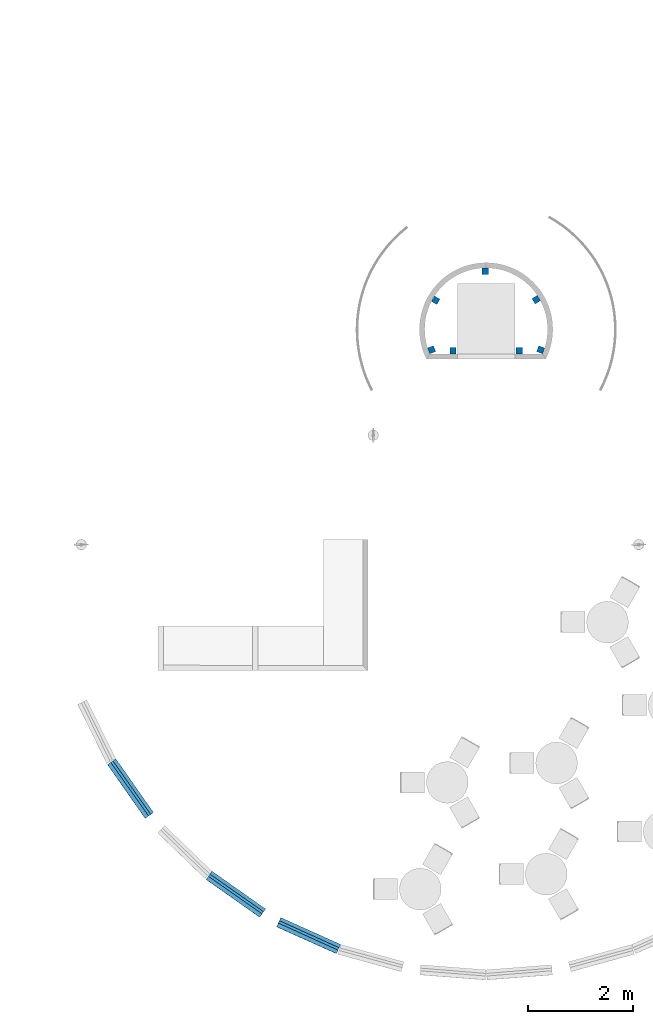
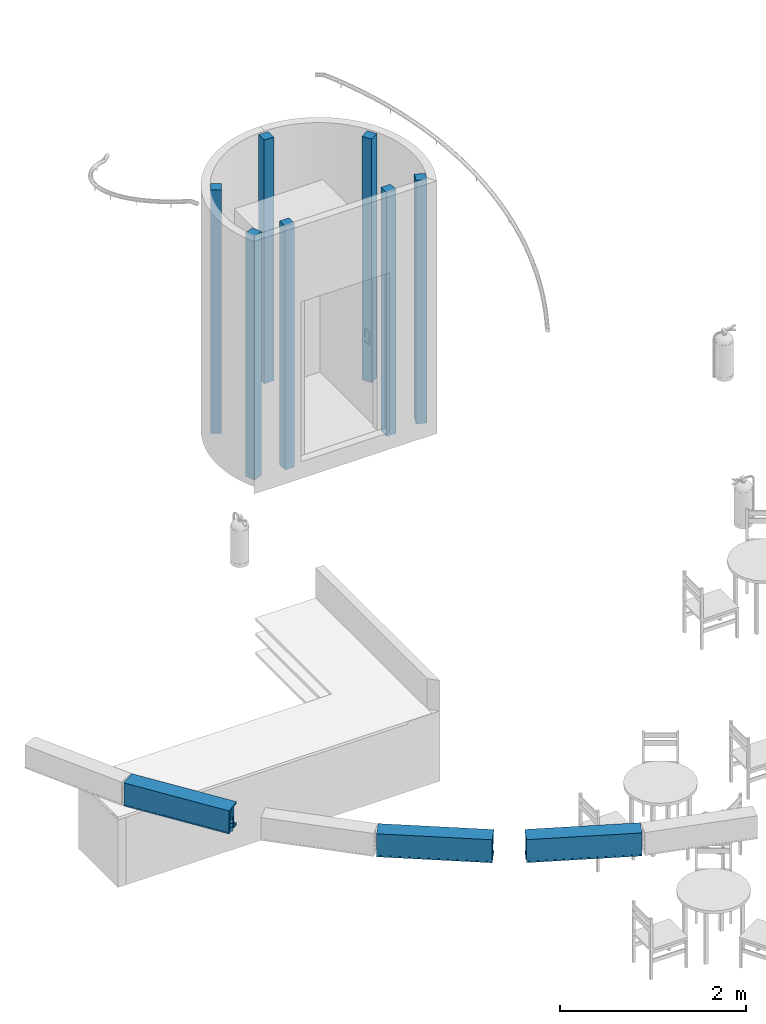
# One storey, part 1 of 6: 7 columns, 6 beams.
"""IFC4 building model written with IfcOpenShell, lengths in millimetres."""

from ifc_helpers import new_model, entity, si_unit, converted_unit, derived_unit, direction, frame, origin_with_axes, place, context, subcontext, project, spatial, line, indexed_curve, outline, composite_profile, extrude, polygons, source, transform, mapped, material, material_profile, profile_set, type_object, element, save


model = new_model("IFC4")

# Units and contexts
model_context = context("Model", 3, precision=0.01, world=origin_with_axes(), true_north=direction((0.0, 1.0)))
body_context = subcontext(model_context, "Body", "Model", "MODEL_VIEW")
ifc_project = project(units=[si_unit("LENGTHUNIT", "METRE", prefix="MILLI"), si_unit("AREAUNIT", "SQUARE_METRE"), si_unit("VOLUMEUNIT", "CUBIC_METRE"), converted_unit("PLANEANGLEUNIT", "DEGREE", entity("IfcPlaneAngleMeasure", 0.0174532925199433), si_unit("PLANEANGLEUNIT", "RADIAN"), dimensions=[0, 0, 0, 0, 0, 0, 0]), converted_unit("TIMEUNIT", "Year", entity("IfcTimeMeasure", 31557600.0), si_unit("TIMEUNIT", "SECOND"), dimensions=[0, 0, 1, 0, 0, 0, 0]), si_unit("MASSUNIT", "GRAM", prefix="KILO"), si_unit("THERMODYNAMICTEMPERATUREUNIT", "DEGREE_CELSIUS"), si_unit("LUMINOUSINTENSITYUNIT", "LUMEN"), si_unit("ENERGYUNIT", "JOULE", prefix="MEGA"), derived_unit("THERMALCONDUCTANCEUNIT", [(si_unit("POWERUNIT", "WATT"), 1), (si_unit("LENGTHUNIT", "METRE"), -1), (si_unit("THERMODYNAMICTEMPERATUREUNIT", "KELVIN"), -1)]), derived_unit("SPECIFICHEATCAPACITYUNIT", [(si_unit("ENERGYUNIT", "JOULE"), 1), (si_unit("MASSUNIT", "GRAM", prefix="KILO"), -1), (si_unit("THERMODYNAMICTEMPERATUREUNIT", "KELVIN"), -1)]), derived_unit("MASSDENSITYUNIT", [(si_unit("MASSUNIT", "GRAM", prefix="KILO"), 1), (si_unit("VOLUMEUNIT", "CUBIC_METRE"), -1)])], contexts=[model_context])

# Site, building, storey
site_placement = place(None, origin_with_axes())
site = spatial("IfcSite", under=ifc_project, at=site_placement, Name="Exteriér", CompositionType="ELEMENT")
building_placement = place(site_placement, origin_with_axes())
building = spatial("IfcBuilding", under=site, at=building_placement, Name="Univerzitní lezecké centrum", CompositionType="ELEMENT")
storey_placement = place(building_placement, origin_with_axes())
storey = spatial("IfcBuildingStorey", under=building, at=storey_placement, Name="1.NP", CompositionType="ELEMENT", Elevation=0.0)

# Columns
ifc_material_1 = material(Name="OBECNÉ - HRUBÉ STAVEBNÍ KONSTRUKCE")
ifc_material_profile_1 = material_profile(ifc_material_1, outline(indexed_curve([(-60.00000007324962, -60.00000007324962), (60.00000007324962, -60.00000007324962), (60.00000007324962, 60.00000007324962), (-60.00000007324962, 60.00000007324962)], segments=[line(1, 2, 3, 4, 1)])), Name="OBECNÉ - HRUBÉ STAVEBNÍ KONSTRUKCE")
ifc_profile_set_1 = profile_set([ifc_material_profile_1])
column_type = type_object("IfcColumnType", Name="Uživatelský profil 120 x 120", PredefinedType="COLUMN")
column_1_placement = place(storey_placement, frame((1411.539252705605, 3310.94092530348, -119.9999999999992), z_axis=(0.0, 0.0, 1.0), x_axis=(0.9342555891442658, 0.3566041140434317, 0.0)))
element("IfcColumn", 1, at=column_1_placement, inside=storey, type_object=column_type, material=ifc_profile_set_1, Name="S006", PredefinedType="COLUMN", context=body_context, shape_type="SweptSolid", body=[
    extrude(outline(indexed_curve([(-60.00000007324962, -60.00000007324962), (60.00000007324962, -60.00000007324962), (60.00000007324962, 60.00000007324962), (-60.00000007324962, 60.00000007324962)], segments=[line(1, 2, 3, 4, 1)])), origin_with_axes(), (0.0, 0.0, 1.0), 3200.0),
])
ifc_material_profile_2 = material_profile(ifc_material_1, outline(indexed_curve([(-60.00000010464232, -60.00000010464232), (60.00000010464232, -60.00000010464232), (60.00000010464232, 60.00000010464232), (-60.00000010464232, 60.00000010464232)], segments=[line(1, 2, 3, 4, 1)])), Name="OBECNÉ - HRUBÉ STAVEBNÍ KONSTRUKCE")
ifc_profile_set_2 = profile_set([ifc_material_profile_2])
column_2_placement = place(storey_placement, frame((2434.703625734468, 4807.584161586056, -119.9999999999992), z_axis=(0.0, 0.0, 1.0), x_axis=(1.0, 0.0, 0.0)))
element("IfcColumn", 2, at=column_2_placement, inside=storey, type_object=column_type, material=ifc_profile_set_2, Name="S006", PredefinedType="COLUMN", context=body_context, shape_type="SweptSolid", body=[
    extrude(outline(indexed_curve([(-60.00000010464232, -60.00000010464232), (60.00000010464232, -60.00000010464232), (60.00000010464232, 60.00000010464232), (-60.00000010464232, 60.00000010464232)], segments=[line(1, 2, 3, 4, 1)])), origin_with_axes(), (0.0, 0.0, 1.0), 3200.0),
])
ifc_material_profile_3 = material_profile(ifc_material_1, outline(indexed_curve([(-60.00000007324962, -60.00000007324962), (60.00000007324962, -60.00000007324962), (60.00000007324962, 60.00000007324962), (-60.00000007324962, 60.00000007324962)], segments=[line(1, 2, 3, 4, 1)])), Name="OBECNÉ - HRUBÉ STAVEBNÍ KONSTRUKCE")
ifc_profile_set_3 = profile_set([ifc_material_profile_3])
column_3_placement = place(storey_placement, frame((3488.141807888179, 3310.881584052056, -119.9999999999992), z_axis=(0.0, 0.0, 1.0), x_axis=(0.9342352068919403, -0.3566575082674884, 0.0)))
element("IfcColumn", 3, at=column_3_placement, inside=storey, type_object=column_type, material=ifc_profile_set_3, Name="S006", PredefinedType="COLUMN", context=body_context, shape_type="SweptSolid", body=[
    extrude(outline(indexed_curve([(-60.00000007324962, -60.00000007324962), (60.00000007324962, -60.00000007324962), (60.00000007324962, 60.00000007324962), (-60.00000007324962, 60.00000007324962)], segments=[line(1, 2, 3, 4, 1)])), frame((0.0, 0.0, 0.0), z_axis=(0.0, 0.0, -1.0), x_axis=(-1.0, 0.0, 0.0)), (0.0, 0.0, -1.0), 3200.0),
])
ifc_material_profile_4 = material_profile(ifc_material_1, outline(indexed_curve([(-60.00000010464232, -60.00000010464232), (60.00000010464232, -60.00000010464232), (60.00000010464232, 60.00000010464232), (-60.00000010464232, 60.00000010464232)], segments=[line(1, 2, 3, 4, 1)])), Name="OBECNÉ - HRUBÉ STAVEBNÍ KONSTRUKCE")
ifc_profile_set_4 = profile_set([ifc_material_profile_4])
column_4_placement = place(storey_placement, frame((1489.53625742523, 4253.287418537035, -119.9999999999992), z_axis=(0.0, 0.0, 1.0), x_axis=(0.867866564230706, -0.4967973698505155, 0.0)))
element("IfcColumn", 4, at=column_4_placement, inside=storey, type_object=column_type, material=ifc_profile_set_4, Name="S007", PredefinedType="COLUMN", context=body_context, shape_type="SweptSolid", body=[
    extrude(outline(indexed_curve([(-60.00000010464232, -60.00000010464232), (60.00000010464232, -60.00000010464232), (60.00000010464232, 60.00000010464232), (-60.00000010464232, 60.00000010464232)], segments=[line(1, 2, 3, 4, 1)])), origin_with_axes(), (0.0, 0.0, 1.0), 3200.0),
])
ifc_material_profile_5 = material_profile(ifc_material_1, outline(indexed_curve([(-60.00000010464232, -60.00000010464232), (60.00000010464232, -60.00000010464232), (60.00000010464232, 60.00000010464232), (-60.00000010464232, 60.00000010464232)], segments=[line(1, 2, 3, 4, 1)])), Name="OBECNÉ - HRUBÉ STAVEBNÍ KONSTRUKCE")
ifc_profile_set_5 = profile_set([ifc_material_profile_5])
column_5_placement = place(storey_placement, frame((1819.713671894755, 3293.441882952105, -119.9999999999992), z_axis=(0.0, 0.0, 1.0), x_axis=(1.0, 0.0, 0.0)))
element("IfcColumn", 5, at=column_5_placement, inside=storey, type_object=column_type, material=ifc_profile_set_5, Name="S006", PredefinedType="COLUMN", context=body_context, shape_type="SweptSolid", body=[
    extrude(outline(indexed_curve([(-60.00000010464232, -60.00000010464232), (60.00000010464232, -60.00000010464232), (60.00000010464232, 60.00000010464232), (-60.00000010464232, 60.00000010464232)], segments=[line(1, 2, 3, 4, 1)])), origin_with_axes(), (0.0, 0.0, 1.0), 3200.0),
])
ifc_material_profile_6 = material_profile(ifc_material_1, outline(indexed_curve([(-60.00000010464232, -60.00000010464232), (60.00000010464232, -60.00000010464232), (60.00000010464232, 60.00000010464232), (-60.00000010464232, 60.00000010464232)], segments=[line(1, 2, 3, 4, 1)])), Name="OBECNÉ - HRUBÉ STAVEBNÍ KONSTRUKCE")
ifc_profile_set_6 = profile_set([ifc_material_profile_6])
column_6_placement = place(storey_placement, frame((3079.966389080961, 3293.405869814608, -119.9999999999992), z_axis=(0.0, 0.0, 1.0), x_axis=(0.9999999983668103, -5.715224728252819e-05, 0.0)))
element("IfcColumn", 6, at=column_6_placement, inside=storey, type_object=column_type, material=ifc_profile_set_6, Name="S006", PredefinedType="COLUMN", context=body_context, shape_type="SweptSolid", body=[
    extrude(outline(indexed_curve([(-60.00000010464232, -60.00000010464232), (60.00000010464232, -60.00000010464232), (60.00000010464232, 60.00000010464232), (-60.00000010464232, 60.00000010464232)], segments=[line(1, 2, 3, 4, 1)])), frame((0.0, 0.0, 0.0), z_axis=(0.0, 0.0, -1.0), x_axis=(-1.0, 0.0, 0.0)), (0.0, 0.0, -1.0), 3200.0),
])
ifc_material_profile_7 = material_profile(ifc_material_1, outline(indexed_curve([(-60.00000010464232, -60.00000010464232), (60.00000010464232, -60.00000010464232), (60.00000010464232, 60.00000010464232), (-60.00000010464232, 60.00000010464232)], segments=[line(1, 2, 3, 4, 1)])), Name="OBECNÉ - HRUBÉ STAVEBNÍ KONSTRUKCE")
ifc_profile_set_7 = profile_set([ifc_material_profile_7])
column_7_placement = place(storey_placement, frame((3403.472159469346, 4265.511352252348, -119.9999999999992), z_axis=(0.0, 0.0, 1.0), x_axis=(0.8580664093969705, 0.5135387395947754, 0.0)))
element("IfcColumn", 7, at=column_7_placement, inside=storey, type_object=column_type, material=ifc_profile_set_7, Name="S008", PredefinedType="COLUMN", context=body_context, shape_type="SweptSolid", body=[
    extrude(outline(indexed_curve([(-60.00000010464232, -60.00000010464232), (60.00000010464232, -60.00000010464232), (60.00000010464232, 60.00000010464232), (-60.00000010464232, 60.00000010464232)], segments=[line(1, 2, 3, 4, 1)])), origin_with_axes(), (0.0, 0.0, 1.0), 3200.0),
])

# Beams
beam_type_1 = type_object("IfcBeamType", Name="Benátské žaluzie 27", PredefinedType="BEAM")
shared_shape_1 = source(origin_with_axes(), body_context, "Body", "Tessellation", [
    polygons([(1250.0, 0.0, 2660.0), (0.0, 0.0, 2660.0), (0.0, 50.0, 2660.0), (1250.0, 50.0, 2660.0), (1250.0, 0.0, 2780.0), (0.0, 0.0, 2780.0), (0.0, 50.0, 2780.0), (1250.0, 50.0, 2780.0)], [[[1, 2, 3, 4]], [[2, 1, 5, 6]], [[3, 2, 6, 7]], [[4, 3, 7, 8]], [[1, 4, 8, 5]], [[6, 5, 8, 7]]], closed=True),
    polygons([(250.5, 5.688538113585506, 2500.0), (249.5, 5.688538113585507, 2500.0), (249.0, 6.554563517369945, 2500.0), (249.5, 7.420588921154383, 2500.0), (250.5, 7.420588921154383, 2500.0), (251.0, 6.554563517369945, 2500.0), (250.5, 5.688538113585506, 2660.0), (249.5, 5.688538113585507, 2660.0), (249.0, 6.554563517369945, 2660.0), (249.5, 7.420588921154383, 2660.0), (250.5, 7.420588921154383, 2660.0), (251.0, 6.554563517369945, 2660.0)], [[[1, 2, 3, 4, 5, 6]], [[2, 1, 7, 8]], [[3, 2, 8, 9]], [[4, 3, 9, 10]], [[5, 4, 10, 11]], [[6, 5, 11, 12]], [[1, 6, 12, 7]], [[7, 12, 11, 10, 9, 8]]], closed=True),
    polygons([(250.5, 42.57941107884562, 2500.0), (249.5, 42.57941107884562, 2500.0), (249.0, 43.44543648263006, 2500.0), (249.5, 44.31146188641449, 2500.0), (250.5, 44.31146188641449, 2500.0), (251.0, 43.44543648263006, 2500.0), (250.5, 42.57941107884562, 2660.0), (249.5, 42.57941107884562, 2660.0), (249.0, 43.44543648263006, 2660.0), (249.5, 44.31146188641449, 2660.0), (250.5, 44.31146188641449, 2660.0), (251.0, 43.44543648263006, 2660.0)], [[[1, 2, 3, 4, 5, 6]], [[2, 1, 7, 8]], [[3, 2, 8, 9]], [[4, 3, 9, 10]], [[5, 4, 10, 11]], [[6, 5, 11, 12]], [[1, 6, 12, 7]], [[7, 12, 11, 10, 9, 8]]], closed=True),
    polygons([(1000.5, 5.688538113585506, 2500.0), (999.5, 5.688538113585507, 2500.0), (999.0, 6.554563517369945, 2500.0), (999.5, 7.420588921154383, 2500.0), (1000.5, 7.420588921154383, 2500.0), (1001.0, 6.554563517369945, 2500.0), (1000.5, 5.688538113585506, 2660.0), (999.5, 5.688538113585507, 2660.0), (999.0, 6.554563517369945, 2660.0), (999.5, 7.420588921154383, 2660.0), (1000.5, 7.420588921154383, 2660.0), (1001.0, 6.554563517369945, 2660.0)], [[[1, 2, 3, 4, 5, 6]], [[2, 1, 7, 8]], [[3, 2, 8, 9]], [[4, 3, 9, 10]], [[5, 4, 10, 11]], [[6, 5, 11, 12]], [[1, 6, 12, 7]], [[7, 12, 11, 10, 9, 8]]], closed=True),
    polygons([(1000.5, 42.57941107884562, 2500.0), (999.5, 42.57941107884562, 2500.0), (999.0, 43.44543648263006, 2500.0), (999.5, 44.31146188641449, 2500.0), (1000.5, 44.31146188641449, 2500.0), (1001.0, 43.44543648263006, 2500.0), (1000.5, 42.57941107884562, 2660.0), (999.5, 42.57941107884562, 2660.0), (999.0, 43.44543648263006, 2660.0), (999.5, 44.31146188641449, 2660.0), (1000.5, 44.31146188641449, 2660.0), (1001.0, 43.44543648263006, 2660.0)], [[[1, 2, 3, 4, 5, 6]], [[2, 1, 7, 8]], [[3, 2, 8, 9]], [[4, 3, 9, 10]], [[5, 4, 10, 11]], [[6, 5, 11, 12]], [[1, 6, 12, 7]], [[7, 12, 11, 10, 9, 8]]], closed=True),
    polygons([(1250.0, 2.019029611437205, 2477.019029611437), (0.0, 2.019029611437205, 2477.019029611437), (0.0, 47.9809703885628, 2522.980970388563), (1250.0, 47.9809703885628, 2522.980970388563), (1250.0, 1.94831893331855, 2477.089740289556), (0.0, 1.94831893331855, 2477.089740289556), (0.0, 47.91025971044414, 2523.051681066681), (1250.0, 47.91025971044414, 2523.051681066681)], [[[1, 2, 3, 4]], [[2, 1, 5, 6]], [[3, 2, 6, 7]], [[4, 3, 7, 8]], [[1, 4, 8, 5]], [[6, 5, 8, 7]]], closed=True),
    polygons([(1250.0, 2.019029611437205, 2529.019029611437), (0.0, 2.019029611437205, 2529.019029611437), (0.0, 47.9809703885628, 2574.980970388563), (1250.0, 47.9809703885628, 2574.980970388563), (1250.0, 1.94831893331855, 2529.089740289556), (0.0, 1.94831893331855, 2529.089740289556), (0.0, 47.91025971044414, 2575.051681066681), (1250.0, 47.91025971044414, 2575.051681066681)], [[[1, 2, 3, 4]], [[2, 1, 5, 6]], [[3, 2, 6, 7]], [[4, 3, 7, 8]], [[1, 4, 8, 5]], [[6, 5, 8, 7]]], closed=True),
    polygons([(1250.0, 2.019029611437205, 2581.019029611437), (0.0, 2.019029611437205, 2581.019029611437), (0.0, 47.9809703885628, 2626.980970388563), (1250.0, 47.9809703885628, 2626.980970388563), (1250.0, 1.94831893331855, 2581.089740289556), (0.0, 1.94831893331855, 2581.089740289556), (0.0, 47.91025971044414, 2627.051681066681), (1250.0, 47.91025971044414, 2627.051681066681)], [[[1, 2, 3, 4]], [[2, 1, 5, 6]], [[3, 2, 6, 7]], [[4, 3, 7, 8]], [[1, 4, 8, 5]], [[6, 5, 8, 7]]], closed=True),
    polygons([(1250.0, 2.019029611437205, 2633.019029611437), (0.0, 2.019029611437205, 2633.019029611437), (0.0, 47.9809703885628, 2678.980970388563), (1250.0, 47.9809703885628, 2678.980970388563), (1250.0, 1.94831893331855, 2633.089740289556), (0.0, 1.94831893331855, 2633.089740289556), (0.0, 47.91025971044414, 2679.051681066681), (1250.0, 47.91025971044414, 2679.051681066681)], [[[1, 2, 3, 4]], [[2, 1, 5, 6]], [[3, 2, 6, 7]], [[4, 3, 7, 8]], [[1, 4, 8, 5]], [[6, 5, 8, 7]]], closed=True),
    polygons([(1250.0, 2.019029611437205, 2685.019029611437), (0.0, 2.019029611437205, 2685.019029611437), (0.0, 47.9809703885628, 2730.980970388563), (1250.0, 47.9809703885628, 2730.980970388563), (1250.0, 1.94831893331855, 2685.089740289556), (0.0, 1.94831893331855, 2685.089740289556), (0.0, 47.91025971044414, 2731.051681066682), (1250.0, 47.91025971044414, 2731.051681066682)], [[[1, 2, 3, 4]], [[2, 1, 5, 6]], [[3, 2, 6, 7]], [[4, 3, 7, 8]], [[1, 4, 8, 5]], [[6, 5, 8, 7]]], closed=True),
])
beam_1_placement = place(storey_placement, frame((-1509.416370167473, -7609.588983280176, 0.0), z_axis=(0.0, 0.0, 1.0), x_axis=(0.9107230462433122, -0.413017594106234, 0.0)))
element("IfcBeam", 8, at=beam_1_placement, inside=storey, type_object=beam_type_1, Name="OV11", PredefinedType="BEAM", context=body_context, shape_type="MappedRepresentation", body=[
    mapped(shared_shape_1, transform((0.0, 0.0, 0.0))),
])
shared_shape_2 = source(origin_with_axes(), body_context, "Body", "Tessellation", [
    polygons([(-1250.0, 0.0, 2660.0), (-1250.0, 50.0, 2660.0), (0.0, 50.0, 2660.0), (0.0, 0.0, 2660.0), (-1250.0, 0.0, 2780.0), (-1250.0, 50.0, 2780.0), (0.0, 50.0, 2780.0), (0.0, 0.0, 2780.0)], [[[1, 2, 3, 4]], [[1, 5, 6, 2]], [[2, 6, 7, 3]], [[3, 7, 8, 4]], [[4, 8, 5, 1]], [[8, 7, 6, 5]]], closed=True),
    polygons([(-250.5, 5.688538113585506, 2500.0), (-251.0, 6.554563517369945, 2500.0), (-250.5, 7.420588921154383, 2500.0), (-249.5, 7.420588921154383, 2500.0), (-249.0, 6.554563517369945, 2500.0), (-249.5, 5.688538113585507, 2500.0), (-250.5, 5.688538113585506, 2660.0), (-251.0, 6.554563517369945, 2660.0), (-250.5, 7.420588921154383, 2660.0), (-249.5, 7.420588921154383, 2660.0), (-249.0, 6.554563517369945, 2660.0), (-249.5, 5.688538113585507, 2660.0)], [[[1, 2, 3, 4, 5, 6]], [[1, 7, 8, 2]], [[2, 8, 9, 3]], [[3, 9, 10, 4]], [[4, 10, 11, 5]], [[5, 11, 12, 6]], [[6, 12, 7, 1]], [[7, 12, 11, 10, 9, 8]]], closed=True),
    polygons([(-250.5, 42.57941107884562, 2500.0), (-251.0, 43.44543648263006, 2500.0), (-250.5, 44.31146188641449, 2500.0), (-249.5, 44.31146188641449, 2500.0), (-249.0, 43.44543648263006, 2500.0), (-249.5, 42.57941107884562, 2500.0), (-250.5, 42.57941107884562, 2660.0), (-251.0, 43.44543648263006, 2660.0), (-250.5, 44.31146188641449, 2660.0), (-249.5, 44.31146188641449, 2660.0), (-249.0, 43.44543648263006, 2660.0), (-249.5, 42.57941107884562, 2660.0)], [[[1, 2, 3, 4, 5, 6]], [[1, 7, 8, 2]], [[2, 8, 9, 3]], [[3, 9, 10, 4]], [[4, 10, 11, 5]], [[5, 11, 12, 6]], [[6, 12, 7, 1]], [[7, 12, 11, 10, 9, 8]]], closed=True),
    polygons([(-1000.5, 5.688538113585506, 2500.0), (-1001.0, 6.554563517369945, 2500.0), (-1000.5, 7.420588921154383, 2500.0), (-999.5, 7.420588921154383, 2500.0), (-999.0, 6.554563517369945, 2500.0), (-999.5, 5.688538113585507, 2500.0), (-1000.5, 5.688538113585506, 2660.0), (-1001.0, 6.554563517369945, 2660.0), (-1000.5, 7.420588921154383, 2660.0), (-999.5, 7.420588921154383, 2660.0), (-999.0, 6.554563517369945, 2660.0), (-999.5, 5.688538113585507, 2660.0)], [[[1, 2, 3, 4, 5, 6]], [[1, 7, 8, 2]], [[2, 8, 9, 3]], [[3, 9, 10, 4]], [[4, 10, 11, 5]], [[5, 11, 12, 6]], [[6, 12, 7, 1]], [[7, 12, 11, 10, 9, 8]]], closed=True),
    polygons([(-1000.5, 42.57941107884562, 2500.0), (-1001.0, 43.44543648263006, 2500.0), (-1000.5, 44.31146188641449, 2500.0), (-999.5, 44.31146188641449, 2500.0), (-999.0, 43.44543648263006, 2500.0), (-999.5, 42.57941107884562, 2500.0), (-1000.5, 42.57941107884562, 2660.0), (-1001.0, 43.44543648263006, 2660.0), (-1000.5, 44.31146188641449, 2660.0), (-999.5, 44.31146188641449, 2660.0), (-999.0, 43.44543648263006, 2660.0), (-999.5, 42.57941107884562, 2660.0)], [[[1, 2, 3, 4, 5, 6]], [[1, 7, 8, 2]], [[2, 8, 9, 3]], [[3, 9, 10, 4]], [[4, 10, 11, 5]], [[5, 11, 12, 6]], [[6, 12, 7, 1]], [[7, 12, 11, 10, 9, 8]]], closed=True),
    polygons([(-1250.0, 2.019029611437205, 2477.019029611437), (-1250.0, 47.9809703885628, 2522.980970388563), (0.0, 47.9809703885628, 2522.980970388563), (0.0, 2.019029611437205, 2477.019029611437), (-1250.0, 1.94831893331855, 2477.089740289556), (-1250.0, 47.91025971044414, 2523.051681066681), (0.0, 47.91025971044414, 2523.051681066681), (0.0, 1.94831893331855, 2477.089740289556)], [[[1, 2, 3, 4]], [[1, 5, 6, 2]], [[2, 6, 7, 3]], [[3, 7, 8, 4]], [[4, 8, 5, 1]], [[8, 7, 6, 5]]], closed=True),
    polygons([(-1250.0, 2.019029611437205, 2529.019029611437), (-1250.0, 47.9809703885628, 2574.980970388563), (0.0, 47.9809703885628, 2574.980970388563), (0.0, 2.019029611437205, 2529.019029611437), (-1250.0, 1.94831893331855, 2529.089740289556), (-1250.0, 47.91025971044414, 2575.051681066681), (0.0, 47.91025971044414, 2575.051681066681), (0.0, 1.94831893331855, 2529.089740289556)], [[[1, 2, 3, 4]], [[1, 5, 6, 2]], [[2, 6, 7, 3]], [[3, 7, 8, 4]], [[4, 8, 5, 1]], [[8, 7, 6, 5]]], closed=True),
    polygons([(-1250.0, 2.019029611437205, 2581.019029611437), (-1250.0, 47.9809703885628, 2626.980970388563), (0.0, 47.9809703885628, 2626.980970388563), (0.0, 2.019029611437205, 2581.019029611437), (-1250.0, 1.94831893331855, 2581.089740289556), (-1250.0, 47.91025971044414, 2627.051681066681), (0.0, 47.91025971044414, 2627.051681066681), (0.0, 1.94831893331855, 2581.089740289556)], [[[1, 2, 3, 4]], [[1, 5, 6, 2]], [[2, 6, 7, 3]], [[3, 7, 8, 4]], [[4, 8, 5, 1]], [[8, 7, 6, 5]]], closed=True),
    polygons([(-1250.0, 2.019029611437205, 2633.019029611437), (-1250.0, 47.9809703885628, 2678.980970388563), (0.0, 47.9809703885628, 2678.980970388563), (0.0, 2.019029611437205, 2633.019029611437), (-1250.0, 1.94831893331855, 2633.089740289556), (-1250.0, 47.91025971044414, 2679.051681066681), (0.0, 47.91025971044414, 2679.051681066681), (0.0, 1.94831893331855, 2633.089740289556)], [[[1, 2, 3, 4]], [[1, 5, 6, 2]], [[2, 6, 7, 3]], [[3, 7, 8, 4]], [[4, 8, 5, 1]], [[8, 7, 6, 5]]], closed=True),
    polygons([(-1250.0, 2.019029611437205, 2685.019029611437), (-1250.0, 47.9809703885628, 2730.980970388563), (0.0, 47.9809703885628, 2730.980970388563), (0.0, 2.019029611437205, 2685.019029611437), (-1250.0, 1.94831893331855, 2685.089740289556), (-1250.0, 47.91025971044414, 2731.051681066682), (0.0, 47.91025971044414, 2731.051681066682), (0.0, 1.94831893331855, 2685.089740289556)], [[[1, 2, 3, 4]], [[1, 5, 6, 2]], [[2, 6, 7, 3]], [[3, 7, 8, 4]], [[4, 8, 5, 1]], [[8, 7, 6, 5]]], closed=True),
])
for number, where, z_axis, x_axis, name in (
    (9, (-3980.016003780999, -5570.088624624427, 0.0), (0.0, 0.0, 1.0), (0.5774255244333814, -0.8164433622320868, 0.0), "OV11"),
    (10, (-1817.74427072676, -7434.510180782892, 0.0), (0.0, 0.0, 1.0), (0.8196046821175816, -0.5729294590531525, 0.0), "OV11"),
):
    element("IfcBeam", number, at=place(storey_placement, frame(where, z_axis=z_axis, x_axis=x_axis)), inside=storey, type_object=beam_type_1, Name=name, PredefinedType="BEAM", context=body_context, shape_type="MappedRepresentation", body=[
        mapped(shared_shape_2, transform((0.0, 0.0, 0.0))),
    ])
ifc_material_2 = material(Name="Tepelná izolace - purenit")
ifc_material_profile_8 = material_profile(ifc_material_2, outline(indexed_curve([(0.0, 0.0), (20.00000298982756, 0.0), (20.00000214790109, 14.99999879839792), (20.00000298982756, 280.2088283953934), (20.00000298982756, 299.7478608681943), (4.466595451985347e-06, 299.7478608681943), (-2.257316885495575e-06, 14.99999879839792)], segments=[line(1, 2, 3, 4, 5, 6, 7, 1)])), Name="Tepelná izolace - purenit 1")
ifc_material_profile_9 = material_profile(ifc_material_2, outline(indexed_curve([(20.0000037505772, 299.7478608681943), (20.0000037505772, 280.2088261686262), (106.1411099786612, 280.2088249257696), (123.1338630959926, 280.2088249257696), (193.0000299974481, 280.2088261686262), (193.0000299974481, 299.7478608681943)], segments=[line(1, 2, 3, 4, 5, 6, 1)])), Name="Tepelná izolace - purenit 2")
ifc_material_3 = material(Name="Hliník")
ifc_material_profile_10 = material_profile(ifc_material_3, outline(indexed_curve([(-2.257316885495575e-06, 14.99999879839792), (-2.000000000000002, 14.99999879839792), (-1.999995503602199, -2.25731666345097e-06), (-1.999995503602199, -1.99999999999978), (22.00000438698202, -1.99999999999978), (22.00000438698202, 14.99999879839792), (20.00000214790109, 14.99999879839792), (20.00000214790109, 2.239081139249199e-06), (2.239080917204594e-06, 2.239081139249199e-06)], segments=[line(1, 2, 3, 4, 5, 6, 7, 8, 9, 1)])), Name="Hliník 1")
ifc_material_profile_11 = material_profile(ifc_material_3, outline(indexed_curve([(106.1411099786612, 278.2010085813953), (120.9999087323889, 278.2189550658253), (120.9999087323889, -1.999997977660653), (193.0000306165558, -2.022881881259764), (193.0000306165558, 22.99604630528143), (191.0000296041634, 22.99604630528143), (191.0000296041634, 0.0006370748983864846), (123.4722741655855, 0.0006370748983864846), (123.1435086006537, 272.2215421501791), (123.1338630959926, 280.2088249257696), (106.1411099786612, 280.2088249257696)], segments=[line(1, 2, 3, 4, 5, 6, 7, 8, 9, 10, 11, 1)])), Name="Hliník 2")
ifc_profile_set_8 = profile_set([ifc_material_profile_8, ifc_material_profile_9, ifc_material_profile_10, ifc_material_profile_11], Name="Purenitový podomítkový box", composite=composite_profile([outline(indexed_curve([(0.0, 0.0), (20.00000298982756, 0.0), (20.00000214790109, 14.99999879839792), (20.00000298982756, 280.2088283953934), (20.00000298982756, 299.7478608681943), (4.466595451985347e-06, 299.7478608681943), (-2.257316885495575e-06, 14.99999879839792)], segments=[line(1, 2, 3, 4, 5, 6, 7, 1)])), outline(indexed_curve([(20.0000037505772, 299.7478608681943), (20.0000037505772, 280.2088261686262), (106.1411099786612, 280.2088249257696), (123.1338630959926, 280.2088249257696), (193.0000299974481, 280.2088261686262), (193.0000299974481, 299.7478608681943)], segments=[line(1, 2, 3, 4, 5, 6, 1)])), outline(indexed_curve([(-2.257316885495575e-06, 14.99999879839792), (-2.000000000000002, 14.99999879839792), (-1.999995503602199, -2.25731666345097e-06), (-1.999995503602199, -1.99999999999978), (22.00000438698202, -1.99999999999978), (22.00000438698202, 14.99999879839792), (20.00000214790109, 14.99999879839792), (20.00000214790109, 2.239081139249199e-06), (2.239080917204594e-06, 2.239081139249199e-06)], segments=[line(1, 2, 3, 4, 5, 6, 7, 8, 9, 1)])), outline(indexed_curve([(106.1411099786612, 278.2010085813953), (120.9999087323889, 278.2189550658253), (120.9999087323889, -1.999997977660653), (193.0000306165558, -2.022881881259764), (193.0000306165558, 22.99604630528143), (191.0000296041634, 22.99604630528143), (191.0000296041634, 0.0006370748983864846), (123.4722741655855, 0.0006370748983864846), (123.1435086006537, 272.2215421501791), (123.1338630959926, 280.2088249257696), (106.1411099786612, 280.2088249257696)], segments=[line(1, 2, 3, 4, 5, 6, 7, 8, 9, 10, 11, 1)]))]))
beam_type_2 = type_object("IfcBeamType", Name="Purenitový podomítkový box 195 x 302", PredefinedType="BEAM")
beam_2_placement = place(storey_placement, frame((-400.9738004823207, -8193.113138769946, 2500.0), z_axis=(0.0, 0.0, 1.0), x_axis=(0.4094050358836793, 0.9123527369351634, 0.0)))
element("IfcBeam", 11, at=beam_2_placement, inside=storey, type_object=beam_type_2, material=ifc_profile_set_8, Name="OV10", PredefinedType="BEAM", context=body_context, shape_type="SweptSolid", body=[
    extrude(composite_profile([outline(indexed_curve([(0.0, 0.0), (20.00000298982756, 0.0), (20.00000214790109, 14.99999879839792), (20.00000298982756, 280.2088283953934), (20.00000298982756, 299.7478608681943), (4.466595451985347e-06, 299.7478608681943), (-2.257316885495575e-06, 14.99999879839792)], segments=[line(1, 2, 3, 4, 5, 6, 7, 1)])), outline(indexed_curve([(20.0000037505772, 299.7478608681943), (20.0000037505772, 280.2088261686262), (106.1411099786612, 280.2088249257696), (123.1338630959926, 280.2088249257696), (193.0000299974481, 280.2088261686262), (193.0000299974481, 299.7478608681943)], segments=[line(1, 2, 3, 4, 5, 6, 1)])), outline(indexed_curve([(-2.257316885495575e-06, 14.99999879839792), (-2.000000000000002, 14.99999879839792), (-1.999995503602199, -2.25731666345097e-06), (-1.999995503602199, -1.99999999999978), (22.00000438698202, -1.99999999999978), (22.00000438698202, 14.99999879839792), (20.00000214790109, 14.99999879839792), (20.00000214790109, 2.239081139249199e-06), (2.239080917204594e-06, 2.239081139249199e-06)], segments=[line(1, 2, 3, 4, 5, 6, 7, 8, 9, 1)])), outline(indexed_curve([(106.1411099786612, 278.2010085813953), (120.9999087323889, 278.2189550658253), (120.9999087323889, -1.999997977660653), (193.0000306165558, -2.022881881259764), (193.0000306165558, 22.99604630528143), (191.0000296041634, 22.99604630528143), (191.0000296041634, 0.0006370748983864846), (123.4722741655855, 0.0006370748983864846), (123.1435086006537, 272.2215421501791), (123.1338630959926, 280.2088249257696), (106.1411099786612, 280.2088249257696)], segments=[line(1, 2, 3, 4, 5, 6, 7, 8, 9, 10, 11, 1)]))]), frame((0.0, 1250.0, 0.0), z_axis=(0.0, -1.0, 0.0), x_axis=(1.0, 0.0, 0.0)), (0.0, 0.0, 1.0), 1250.0),
])
for number, where, z_axis, x_axis, name in (
    (12, (-4762.189504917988, -4591.645992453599, 2500.0), (0.0, 0.0, 1.0), (-0.818725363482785, -0.5741853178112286, 0.0), "OV10"),
    (13, (-2884.832241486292, -6778.409096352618, 2500.0), (0.0, 0.0, 1.0), (-0.5761731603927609, -0.8173276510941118, 0.0), "OV10"),
):
    element("IfcBeam", number, at=place(storey_placement, frame(where, z_axis=z_axis, x_axis=x_axis)), inside=storey, type_object=beam_type_2, material=ifc_profile_set_8, Name=name, PredefinedType="BEAM", context=body_context, shape_type="SweptSolid", body=[
        extrude(composite_profile([outline(indexed_curve([(0.0, 0.0), (20.00000298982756, 0.0), (20.00000214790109, 14.99999879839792), (20.00000298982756, 280.2088283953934), (20.00000298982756, 299.7478608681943), (4.466595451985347e-06, 299.7478608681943), (-2.257316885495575e-06, 14.99999879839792)], segments=[line(1, 2, 3, 4, 5, 6, 7, 1)])), outline(indexed_curve([(20.0000037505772, 299.7478608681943), (20.0000037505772, 280.2088261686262), (106.1411099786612, 280.2088249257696), (123.1338630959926, 280.2088249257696), (193.0000299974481, 280.2088261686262), (193.0000299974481, 299.7478608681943)], segments=[line(1, 2, 3, 4, 5, 6, 1)])), outline(indexed_curve([(-2.257316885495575e-06, 14.99999879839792), (-2.000000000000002, 14.99999879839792), (-1.999995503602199, -2.25731666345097e-06), (-1.999995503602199, -1.99999999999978), (22.00000438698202, -1.99999999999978), (22.00000438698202, 14.99999879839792), (20.00000214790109, 14.99999879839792), (20.00000214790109, 2.239081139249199e-06), (2.239080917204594e-06, 2.239081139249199e-06)], segments=[line(1, 2, 3, 4, 5, 6, 7, 8, 9, 1)])), outline(indexed_curve([(106.1411099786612, 278.2010085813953), (120.9999087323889, 278.2189550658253), (120.9999087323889, -1.999997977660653), (193.0000306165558, -2.022881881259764), (193.0000306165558, 22.99604630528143), (191.0000296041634, 22.99604630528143), (191.0000296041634, 0.0006370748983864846), (123.4722741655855, 0.0006370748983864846), (123.1435086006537, 272.2215421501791), (123.1338630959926, 280.2088249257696), (106.1411099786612, 280.2088249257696)], segments=[line(1, 2, 3, 4, 5, 6, 7, 8, 9, 10, 11, 1)]))]), frame((0.0, 1250.000000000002, 0.0), z_axis=(0.0, 1.0, 0.0), x_axis=(-1.0, 0.0, 0.0)), (0.0, 0.0, -1.0), 1250.000000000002),
    ])

save(model, "model.ifc")
